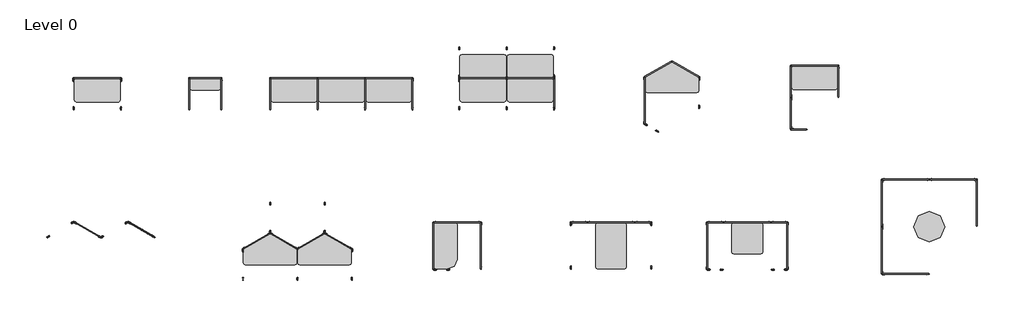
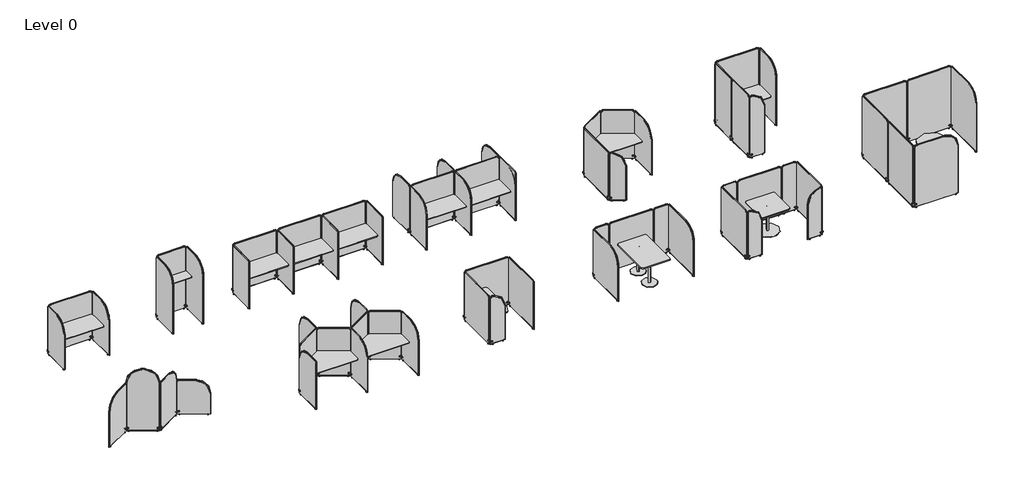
# One storey, incomplete: 130 furniture elements.
"""IFC4 building model written with IfcOpenShell, lengths in millimetres."""

from ifc_helpers import new_model, si_unit, origin, place, context, project, spatial, transform, mapped, element, save
from components import furniture_53994bdf, furniture_681635c7, furniture_77d4a9f0, furniture_fb40049b, furniture_39da6c51, furniture_63e6da80, furniture_cb25d1a6, furniture_31741fdc, furniture_1200_x_600_desk_1b4974f5, furniture_1200_x_600_desk_c705bebf, booth_desk_left_ba8bafd5, high_1200_radius_wall_e7a14534, high_1200_radius_wall_2fde37d9, high_1200_square_wall_9c159515, high_1200_square_wall_e177793e, high_400_radius_wall_c7d0d529, high_800_arch_wall_f41f3d3d, high_800_radius_wall_8716b8e9, high_800_radius_wall_88a6a849, high_800_square_wall_054c3995, high_800_square_wall_713c82bf, ledge_top_460520a5, low_800_radius_wall_ecd84fb3, mid_1200_radius_wall_593a21f5, mid_1200_square_wall_a06490c5, mid_1200_square_wall_6a94bbc1, mid_400_radius_wall_6cb88911, mid_400_radius_wall_c67583d0, mid_400_square_wall_69be5a48, mid_400_square_wall_4edd793a, mid_800_radius_wall_d383712f, mid_800_radius_wall_df8133a5, mid_800_square_wall_40fcdca0, mid_800_square_wall_5ebc1928, straight_link_5d8c671a, straight_link_6983c467, t_link_2f3e7760, t_link_76a82dae, triangular_desk_e4d0531c, x_link_ebb2dd72, x_link_8aea4371

model = new_model("IFC4")

# Units and contexts
model_context = context("Model", 3, world=origin())
ifc_project = project(units=[si_unit("LENGTHUNIT", "METRE", prefix="MILLI")], contexts=[model_context])

# Site, building, storey
site = spatial("IfcSite", under=ifc_project)
building = spatial("IfcBuilding", under=site)
storey = spatial("IfcBuildingStorey", under=building, Name="Level 0", Elevation=0.0)

# Furniture
placement = place(None, origin())
furniture_shape = furniture_53994bdf(model_context)
element("IfcFurniture", 1, ObjectType="DBLTD_Sixteen3_PrivacyScreens_Artus_Bracket : 90° Corner Link", at=placement, inside=storey, context=model_context, shape_type="MappedRepresentation", body=[
    mapped(furniture_shape, transform((-5528.2192431, 7930.8726148, 0.0), x_axis=(0.0, 1.0, 0.0), y_axis=(-1.0, 0.0, 0.0), z_axis=(0.0, 0.0, 1.0))),
])
element("IfcFurniture", 2, ObjectType="DBLTD_Sixteen3_PrivacyScreens_Artus_Bracket : 90° Corner Link", at=placement, inside=storey, context=model_context, shape_type="MappedRepresentation", body=[
    mapped(furniture_shape, transform((-2928.2192431, 7930.8726148, 0.0), x_axis=(0.0, 1.0, 0.0), y_axis=(-1.0, 0.0, 0.0), z_axis=(0.0, 0.0, 1.0))),
])
element("IfcFurniture", 3, ObjectType="DBLTD_Sixteen3_PrivacyScreens_Artus_Bracket : 90° Corner Link", at=placement, inside=storey, context=model_context, shape_type="MappedRepresentation", body=[
    mapped(furniture_shape, transform((2028.5333389, 7930.8726148, 0.0), x_axis=(0.0, 1.0, 0.0), y_axis=(-1.0, 0.0, 0.0), z_axis=(0.0, 0.0, 1.0))),
])
element("IfcFurniture", 4, ObjectType="DBLTD_Sixteen3_PrivacyScreens_Artus_Bracket : 90° Corner Link", at=placement, inside=storey, context=model_context, shape_type="MappedRepresentation", body=[
    mapped(furniture_shape, transform((13071.7807569, 8254.6189273, 0.0), x_axis=(0.0, 1.0, 0.0), y_axis=(-1.0, 0.0, 0.0), z_axis=(0.0, 0.0, 1.0))),
])
element("IfcFurniture", 5, ObjectType="DBLTD_Sixteen3_PrivacyScreens_Artus_Bracket : 90° Corner Link", at=placement, inside=storey, context=model_context, shape_type="MappedRepresentation", body=[
    mapped(furniture_shape, transform((1753.1459869, 5008.7045529, 0.0), x_axis=(-1.0, 0.0, 0.0), y_axis=(0.0, -1.0, 0.0), z_axis=(0.0, 0.0, 1.0))),
])
element("IfcFurniture", 6, ObjectType="DBLTD_Sixteen3_PrivacyScreens_Artus_Bracket : 90° Corner Link", at=placement, inside=storey, context=model_context, shape_type="MappedRepresentation", body=[
    mapped(furniture_shape, transform((5317.5243226, 5008.7045529, 0.0), x_axis=(-1.0, 0.0, 0.0), y_axis=(0.0, -1.0, 0.0), z_axis=(0.0, 0.0, 1.0))),
])
element("IfcFurniture", 7, ObjectType="DBLTD_Sixteen3_PrivacyScreens_Artus_Bracket : 90° Corner Link", at=placement, inside=storey, context=model_context, shape_type="MappedRepresentation", body=[
    mapped(furniture_shape, transform((8849.7997214, 5008.7045529, 0.0), x_axis=(-1.0, 0.0, 0.0), y_axis=(0.0, -1.0, 0.0), z_axis=(0.0, 0.0, 1.0))),
])
element("IfcFurniture", 8, ObjectType="DBLTD_Sixteen3_PrivacyScreens_Artus_Bracket : 90° Corner Link", at=placement, inside=storey, context=model_context, shape_type="MappedRepresentation", body=[
    mapped(furniture_shape, transform((10931.6493345, 2140.3282619, 0.0), x_axis=(1.0, 0.0, 0.0), y_axis=(0.0, 1.0, 0.0), z_axis=(0.0, 0.0, 1.0))),
])
element("IfcFurniture", 9, ObjectType="DBLTD_Sixteen3_PrivacyScreens_Artus_Bracket : 90° Corner Link", at=placement, inside=storey, context=model_context, shape_type="MappedRepresentation", body=[
    mapped(furniture_shape, transform((10932.1607488, 2140.3282619, 0.0), x_axis=(1.0, 0.0, 0.0), y_axis=(0.0, 1.0, 0.0), z_axis=(0.0, 0.0, 1.0))),
])
element("IfcFurniture", 10, ObjectType="DBLTD_Sixteen3_PrivacyScreens_Artus_Bracket : 90° Corner Link", at=placement, inside=storey, context=model_context, shape_type="MappedRepresentation", body=[
    mapped(furniture_shape, transform((16658.9953523, 5301.4012284, 0.0), x_axis=(0.0, 1.0, 0.0), y_axis=(-1.0, 0.0, 0.0), z_axis=(0.0, 0.0, 1.0))),
])
element("IfcFurniture", 11, ObjectType="DBLTD_Sixteen3_PrivacyScreens_Artus_Bracket : 90° Corner Link", at=placement, inside=storey, context=model_context, shape_type="MappedRepresentation", body=[
    mapped(furniture_shape, transform((12563.6908637, 2846.0967398, 0.0), x_axis=(0.0, -1.0, 0.0), y_axis=(1.0, 0.0, 0.0), z_axis=(0.0, 0.0, 1.0))),
])
furniture_2_shape = furniture_681635c7(model_context)
element("IfcFurniture", 12, ObjectType="DBLTD_Sixteen3_PrivacyScreens_Artus_Bracket : 120° Corner Link", at=placement, inside=storey, context=model_context, shape_type="MappedRepresentation", body=[
    mapped(furniture_2_shape, transform((6408.8793601, 6735.6071257, 0.0), x_axis=(0.0, -1.0, 0.0), y_axis=(1.0, 0.0, 0.0), z_axis=(0.0, 0.0, 1.0))),
])
element("IfcFurniture", 13, ObjectType="DBLTD_Sixteen3_PrivacyScreens_Artus_Bracket : 120° Corner Link", at=placement, inside=storey, context=model_context, shape_type="MappedRepresentation", body=[
    mapped(furniture_2_shape, transform((9462.3894116, 7967.8605915, 0.0), x_axis=(0.0, 1.0, 0.0), y_axis=(-1.0, 0.0, 0.0), z_axis=(0.0, 0.0, 1.0))),
])
element("IfcFurniture", 14, ObjectType="DBLTD_Sixteen3_PrivacyScreens_Artus_Bracket : 120° Corner Link", at=placement, inside=storey, context=model_context, shape_type="MappedRepresentation", body=[
    mapped(furniture_2_shape, transform((-7168.9409098, 4913.952052, 0.0), x_axis=(-0.8660254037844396, 0.4999999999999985, 0.0), y_axis=(-0.4999999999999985, -0.8660254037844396, 0.0), z_axis=(0.0, 0.0, 1.0))),
])
element("IfcFurniture", 15, ObjectType="DBLTD_Sixteen3_PrivacyScreens_Artus_Bracket : 120° Corner Link", at=placement, inside=storey, context=model_context, shape_type="MappedRepresentation", body=[
    mapped(furniture_2_shape, transform((-5765.3387395, 4913.952052, 0.0), x_axis=(-0.8660254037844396, 0.4999999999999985, 0.0), y_axis=(-0.4999999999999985, -0.8660254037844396, 0.0), z_axis=(0.0, 0.0, 1.0))),
])
element("IfcFurniture", 16, ObjectType="DBLTD_Sixteen3_PrivacyScreens_Artus_Bracket : 120° Corner Link", at=placement, inside=storey, context=model_context, shape_type="MappedRepresentation", body=[
    mapped(furniture_2_shape, transform((-952.9909902, 3503.7364897, 0.0), x_axis=(0.0, 1.0, 0.0), y_axis=(-1.0, 0.0, 0.0), z_axis=(0.0, 0.0, 1.0))),
])
element("IfcFurniture", 17, ObjectType="DBLTD_Sixteen3_PrivacyScreens_Artus_Bracket : 120° Corner Link", at=placement, inside=storey, context=model_context, shape_type="MappedRepresentation", body=[
    mapped(furniture_2_shape, transform((459.6241959, 3503.7364897, 0.0), x_axis=(0.0, 1.0, 0.0), y_axis=(-1.0, 0.0, 0.0), z_axis=(0.0, 0.0, 1.0))),
])
furniture_3_shape = furniture_77d4a9f0(model_context)
element("IfcFurniture", 18, ObjectType="DBLTD_Sixteen3_PrivacyScreens_Artus_Bracket : 90° Corner Link", at=placement, inside=storey, context=model_context, shape_type="MappedRepresentation", body=[
    mapped(furniture_3_shape, transform((-8396.5955341, 7930.8726148, 0.0), x_axis=(0.0, 1.0, 0.0), y_axis=(-1.0, 0.0, 0.0), z_axis=(0.0, 0.0, 1.0))),
])
element("IfcFurniture", 19, ObjectType="DBLTD_Sixteen3_PrivacyScreens_Artus_Bracket : 90° Corner Link", at=placement, inside=storey, context=model_context, shape_type="MappedRepresentation", body=[
    mapped(furniture_3_shape, transform((-5397.4073886, 7930.8726148, 0.0), x_axis=(0.0, 1.0, 0.0), y_axis=(-1.0, 0.0, 0.0), z_axis=(0.0, 0.0, 1.0))),
])
element("IfcFurniture", 20, ObjectType="DBLTD_Sixteen3_PrivacyScreens_Artus_Bracket : 90° Corner Link", at=placement, inside=storey, context=model_context, shape_type="MappedRepresentation", body=[
    mapped(furniture_3_shape, transform((-3296.5955341, 7930.8726148, 0.0), x_axis=(0.0, 1.0, 0.0), y_axis=(-1.0, 0.0, 0.0), z_axis=(0.0, 0.0, 1.0))),
])
element("IfcFurniture", 21, ObjectType="DBLTD_Sixteen3_PrivacyScreens_Artus_Bracket : 90° Corner Link", at=placement, inside=storey, context=model_context, shape_type="MappedRepresentation", body=[
    mapped(furniture_3_shape, transform((10203.4044659, 8254.6189273, 0.0), x_axis=(0.0, 1.0, 0.0), y_axis=(-1.0, 0.0, 0.0), z_axis=(0.0, 0.0, 1.0))),
])
element("IfcFurniture", 22, ObjectType="DBLTD_Sixteen3_PrivacyScreens_Artus_Bracket : 90° Corner Link", at=placement, inside=storey, context=model_context, shape_type="MappedRepresentation", body=[
    mapped(furniture_3_shape, transform((11023.4044659, 5781.4440283, 0.0), x_axis=(-1.0, 0.0, 0.0), y_axis=(0.0, -1.0, 0.0), z_axis=(0.0, 0.0, 1.0))),
])
element("IfcFurniture", 23, ObjectType="DBLTD_Sixteen3_PrivacyScreens_Artus_Bracket : 90° Corner Link", at=placement, inside=storey, context=model_context, shape_type="MappedRepresentation", body=[
    mapped(furniture_3_shape, transform((1753.1459869, 2140.3282619, 0.0), x_axis=(-1.0, 0.0, 0.0), y_axis=(0.0, -1.0, 0.0), z_axis=(0.0, 0.0, 1.0))),
])
element("IfcFurniture", 24, ObjectType="DBLTD_Sixteen3_PrivacyScreens_Artus_Bracket : 90° Corner Link", at=placement, inside=storey, context=model_context, shape_type="MappedRepresentation", body=[
    mapped(furniture_3_shape, transform((2985.5070142, 5008.7045529, 0.0), x_axis=(1.0, 0.0, 0.0), y_axis=(0.0, 1.0, 0.0), z_axis=(0.0, 0.0, 1.0))),
])
element("IfcFurniture", 25, ObjectType="DBLTD_Sixteen3_PrivacyScreens_Artus_Bracket : 90° Corner Link", at=placement, inside=storey, context=model_context, shape_type="MappedRepresentation", body=[
    mapped(furniture_3_shape, transform((7399.3739357, 5008.7045529, 0.0), x_axis=(1.0, 0.0, 0.0), y_axis=(0.0, 1.0, 0.0), z_axis=(0.0, 0.0, 1.0))),
])
element("IfcFurniture", 26, ObjectType="DBLTD_Sixteen3_PrivacyScreens_Artus_Bracket : 90° Corner Link", at=placement, inside=storey, context=model_context, shape_type="MappedRepresentation", body=[
    mapped(furniture_3_shape, transform((10931.6493345, 5008.7045529, 0.0), x_axis=(1.0, 0.0, 0.0), y_axis=(0.0, 1.0, 0.0), z_axis=(0.0, 0.0, 1.0))),
])
element("IfcFurniture", 27, ObjectType="DBLTD_Sixteen3_PrivacyScreens_Artus_Bracket : 90° Corner Link", at=placement, inside=storey, context=model_context, shape_type="MappedRepresentation", body=[
    mapped(furniture_3_shape, transform((8849.7997214, 2140.3282619, 0.0), x_axis=(-1.0, 0.0, 0.0), y_axis=(0.0, -1.0, 0.0), z_axis=(0.0, 0.0, 1.0))),
])
element("IfcFurniture", 28, ObjectType="DBLTD_Sixteen3_PrivacyScreens_Artus_Bracket : 90° Corner Link", at=placement, inside=storey, context=model_context, shape_type="MappedRepresentation", body=[
    mapped(furniture_3_shape, transform((12563.6908637, 5301.4012284, 0.0), x_axis=(0.0, 1.0, 0.0), y_axis=(-1.0, 0.0, 0.0), z_axis=(0.0, 0.0, 1.0))),
])
furniture_4_shape = furniture_fb40049b(model_context)
element("IfcFurniture", 29, ObjectType="DBLTD_Sixteen3_PrivacyScreens_Artus_Bracket : 120° Corner Link", at=placement, inside=storey, context=model_context, shape_type="MappedRepresentation", body=[
    mapped(furniture_4_shape, transform((6408.9049105, 7967.8605915, 0.0), x_axis=(0.0, 1.0, 0.0), y_axis=(-1.0, 0.0, 0.0), z_axis=(0.0, 0.0, 1.0))),
])
element("IfcFurniture", 30, ObjectType="DBLTD_Sixteen3_PrivacyScreens_Artus_Bracket : 120° Corner Link", at=placement, inside=storey, context=model_context, shape_type="MappedRepresentation", body=[
    mapped(furniture_4_shape, transform((-6467.1398246, 3080.6703898, 0.0), x_axis=(-0.8660254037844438, -0.4999999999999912, 0.0), y_axis=(0.4999999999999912, -0.8660254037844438, 0.0), z_axis=(0.0, 0.0, 1.0))),
])
element("IfcFurniture", 31, ObjectType="DBLTD_Sixteen3_PrivacyScreens_Artus_Bracket : 120° Corner Link", at=placement, inside=storey, context=model_context, shape_type="MappedRepresentation", body=[
    mapped(furniture_4_shape, transform((-4006.4754913, 3503.7364897, 0.0), x_axis=(0.0, 1.0, 0.0), y_axis=(-1.0, 0.0, 0.0), z_axis=(0.0, 0.0, 1.0))),
])
furniture_5_shape = furniture_39da6c51(model_context)
element("IfcFurniture", 32, ObjectType="DBLTD_Sixteen3_PrivacyScreens_Artus_Bracket : 120° 3-Way Link", at=placement, inside=storey, context=model_context, shape_type="MappedRepresentation", body=[
    mapped(furniture_5_shape, transform((-2593.5744858, 3503.7364897, 0.0), x_axis=(0.0, 1.0, 0.0), y_axis=(-1.0, 0.0, 0.0), z_axis=(0.0, 0.0, 1.0))),
])
element("IfcFurniture", 33, ObjectType="DBLTD_Sixteen3_PrivacyScreens_Artus_Bracket : 120° 3-Way Link", at=placement, inside=storey, context=model_context, shape_type="MappedRepresentation", body=[
    mapped(furniture_5_shape, transform((-1660.0047529, 3895.6229639, 0.0), x_axis=(0.0, -1.0, 0.0), y_axis=(1.0, 0.0, 0.0), z_axis=(0.0, 0.0, 1.0))),
])
element("IfcFurniture", 34, ObjectType="DBLTD_Sixteen3_PrivacyScreens_Artus_Bracket : 120° 3-Way Link", at=placement, inside=storey, context=model_context, shape_type="MappedRepresentation", body=[
    mapped(furniture_5_shape, transform((-247.6053247, 3895.6229639, 0.0), x_axis=(0.0, -1.0, 0.0), y_axis=(1.0, 0.0, 0.0), z_axis=(0.0, 0.0, 1.0))),
])
furniture_6_shape = furniture_63e6da80(model_context)
element("IfcFurniture", 35, ObjectType="OPP-SH-12-80 - Standard Height - 1200x800 Rectangle : OPP-SH-12-80 - Standard Height - 1200x800 Rectangle", at=placement, inside=storey, context=model_context, shape_type="MappedRepresentation", body=[
    mapped(furniture_6_shape, transform((6358.7048363, 3574.5164074, 0.0), x_axis=(0.0, 1.0, 0.0), y_axis=(-1.0, 0.0, 0.0), z_axis=(0.0, 0.0, 1.0))),
])
furniture_7_shape = furniture_cb25d1a6(model_context)
element("IfcFurniture", 36, ObjectType="OPP-SH-S800 - Standard Height - 800 Square : OPP-SH-S800 - Standard Height - 800 Square", at=placement, inside=storey, context=model_context, shape_type="MappedRepresentation", body=[
    mapped(furniture_7_shape, transform((9890.9802351, 3775.4551932, 0.0), x_axis=(1.0, 0.0, 0.0), y_axis=(0.0, 1.0, 0.0), z_axis=(0.0, 0.0, 1.0))),
])
furniture_8_shape = furniture_31741fdc(model_context)
element("IfcFurniture", 37, ObjectType="OPP-SH-R800 - Standard Height - 800 Dia : OPP-SH-R800 - Standard Height - 800 Dia", at=placement, inside=storey, context=model_context, shape_type="MappedRepresentation", body=[
    mapped(furniture_8_shape, transform((14610.2374616, 4074.2069579, 0.0), x_axis=(0.7071067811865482, -0.7071067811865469, 0.0), y_axis=(0.7071067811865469, 0.7071067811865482, 0.0), z_axis=(0.0, 0.0, 1.0))),
])
furniture_1200_x_600_desk_shape = furniture_1200_x_600_desk_1b4974f5(model_context)
element("IfcFurniture", 38, ObjectType="DBLTD_Sixteen3_PrivacyScreens_Artus_Desk : 1200 x 600 Desk", at=placement, inside=storey, context=model_context, shape_type="MappedRepresentation", body=[
    mapped(furniture_1200_x_600_desk_shape, transform((-6962.4073886, 6796.8726148, 0.0), x_axis=(1.0, 0.0, 0.0), y_axis=(0.0, 1.0, 0.0), z_axis=(0.0, 0.0, 1.0))),
])
element("IfcFurniture", 39, ObjectType="DBLTD_Sixteen3_PrivacyScreens_Artus_Desk : 1200 x 600 Desk", at=placement, inside=storey, context=model_context, shape_type="MappedRepresentation", body=[
    mapped(furniture_1200_x_600_desk_shape, transform((-1862.4073886, 6796.8726148, 0.0), x_axis=(1.0, 0.0, 0.0), y_axis=(0.0, 1.0, 0.0), z_axis=(0.0, 0.0, 1.0))),
])
element("IfcFurniture", 40, ObjectType="DBLTD_Sixteen3_PrivacyScreens_Artus_Desk : 1200 x 600 Desk", at=placement, inside=storey, context=model_context, shape_type="MappedRepresentation", body=[
    mapped(furniture_1200_x_600_desk_shape, transform((-634.0310976, 6796.8726148, 0.0), x_axis=(1.0, 0.0, 0.0), y_axis=(0.0, 1.0, 0.0), z_axis=(0.0, 0.0, 1.0))),
])
element("IfcFurniture", 41, ObjectType="DBLTD_Sixteen3_PrivacyScreens_Artus_Desk : 1200 x 600 Desk", at=placement, inside=storey, context=model_context, shape_type="MappedRepresentation", body=[
    mapped(furniture_1200_x_600_desk_shape, transform((594.3451934, 6796.8726148, 0.0), x_axis=(1.0, 0.0, 0.0), y_axis=(0.0, 1.0, 0.0), z_axis=(0.0, 0.0, 1.0))),
])
element("IfcFurniture", 42, ObjectType="DBLTD_Sixteen3_PrivacyScreens_Artus_Desk : 1200 x 600 Desk", at=placement, inside=storey, context=model_context, shape_type="MappedRepresentation", body=[
    mapped(furniture_1200_x_600_desk_shape, transform((3037.5926114, 6796.8726148, 0.0), x_axis=(1.0, 0.0, 0.0), y_axis=(0.0, 1.0, 0.0), z_axis=(0.0, 0.0, 1.0))),
])
element("IfcFurniture", 43, ObjectType="DBLTD_Sixteen3_PrivacyScreens_Artus_Desk : 1200 x 600 Desk", at=placement, inside=storey, context=model_context, shape_type="MappedRepresentation", body=[
    mapped(furniture_1200_x_600_desk_shape, transform((4265.9689024, 6796.8726148, 0.0), x_axis=(1.0, 0.0, 0.0), y_axis=(0.0, 1.0, 0.0), z_axis=(0.0, 0.0, 1.0))),
])
element("IfcFurniture", 44, ObjectType="DBLTD_Sixteen3_PrivacyScreens_Artus_Desk : 1200 x 600 Desk", at=placement, inside=storey, context=model_context, shape_type="MappedRepresentation", body=[
    mapped(furniture_1200_x_600_desk_shape, transform((11637.5926114, 7120.6189273, 0.0), x_axis=(1.0, 0.0, 0.0), y_axis=(0.0, 1.0, 0.0), z_axis=(0.0, 0.0, 1.0))),
])
furniture_1200_x_600_desk_2_shape = furniture_1200_x_600_desk_c705bebf(model_context)
element("IfcFurniture", 45, ObjectType="DBLTD_Sixteen3_PrivacyScreens_Artus_Desk : 1200 x 600 Desk", at=placement, inside=storey, context=model_context, shape_type="MappedRepresentation", body=[
    mapped(furniture_1200_x_600_desk_2_shape, transform((3037.5926114, 9064.7798047, 0.0), x_axis=(1.0, 0.0, 0.0), y_axis=(0.0, 1.0, 0.0), z_axis=(0.0, 0.0, 1.0))),
])
element("IfcFurniture", 46, ObjectType="DBLTD_Sixteen3_PrivacyScreens_Artus_Desk : 1200 x 600 Desk", at=placement, inside=storey, context=model_context, shape_type="MappedRepresentation", body=[
    mapped(furniture_1200_x_600_desk_2_shape, transform((4265.9689024, 9064.7798047, 0.0), x_axis=(1.0, 0.0, 0.0), y_axis=(0.0, 1.0, 0.0), z_axis=(0.0, 0.0, 1.0))),
])
booth_desk_left_shape = booth_desk_left_ba8bafd5(model_context)
element("IfcFurniture", 47, ObjectType="DBLTD_Sixteen3_PrivacyScreens_Artus_Desk : Booth Desk Left", at=placement, inside=storey, context=model_context, shape_type="MappedRepresentation", body=[
    mapped(booth_desk_left_shape, transform((2887.1459869, 3574.5164074, 0.0), x_axis=(0.0, 1.0, 0.0), y_axis=(-1.0, 0.0, 0.0), z_axis=(0.0, 0.0, 1.0))),
])
high_1200_radius_wall_shape = high_1200_radius_wall_e7a14534(model_context)
element("IfcFurniture", 48, ObjectType="DBLTD_Sixteen3_PrivacyScreens_Artus_ArchRadius : High 1200 Radius Wall", at=placement, inside=storey, context=model_context, shape_type="MappedRepresentation", body=[
    mapped(high_1200_radius_wall_shape, transform((13998.343108, 3665.8473801, 0.0), x_axis=(-1.0, 0.0, 0.0), y_axis=(0.0, -1.0, 0.0), z_axis=(0.0, 0.0, 1.0))),
])
high_1200_radius_wall_2_shape = high_1200_radius_wall_2fde37d9(model_context)
element("IfcFurniture", 49, ObjectType="DBLTD_Sixteen3_PrivacyScreens_Artus_ArchRadius : High 1200 Radius Wall", at=placement, inside=storey, context=model_context, shape_type="MappedRepresentation", body=[
    mapped(high_1200_radius_wall_2_shape, transform((15018.9953523, 4686.4996244, 0.0), x_axis=(0.0, 1.0, 0.0), y_axis=(-1.0, 0.0, 0.0), z_axis=(0.0, 0.0, 1.0))),
])
high_1200_square_wall_shape = high_1200_square_wall_9c159515(model_context)
element("IfcFurniture", 50, ObjectType="DBLTD_Sixteen3_PrivacyScreens_Artus_Square : High 1200 Square Wall", at=placement, inside=storey, context=model_context, shape_type="MappedRepresentation", body=[
    mapped(high_1200_square_wall_shape, transform((11637.5926114, 7434.5725223, 0.0), x_axis=(1.0, 0.0, 0.0), y_axis=(0.0, 1.0, 0.0), z_axis=(0.0, 0.0, 1.0))),
])
element("IfcFurniture", 51, ObjectType="DBLTD_Sixteen3_PrivacyScreens_Artus_Square : High 1200 Square Wall", at=placement, inside=storey, context=model_context, shape_type="MappedRepresentation", body=[
    mapped(high_1200_square_wall_shape, transform((15224.343108, 6121.1518687, 0.0), x_axis=(-1.0, 0.0, 0.0), y_axis=(0.0, -1.0, 0.0), z_axis=(0.0, 0.0, 1.0))),
])
element("IfcFurniture", 52, ObjectType="DBLTD_Sixteen3_PrivacyScreens_Artus_Square : High 1200 Square Wall", at=placement, inside=storey, context=model_context, shape_type="MappedRepresentation", body=[
    mapped(high_1200_square_wall_shape, transform((13998.343108, 6121.1518687, 0.0), x_axis=(-1.0, 0.0, 0.0), y_axis=(0.0, -1.0, 0.0), z_axis=(0.0, 0.0, 1.0))),
])
high_1200_square_wall_2_shape = high_1200_square_wall_e177793e(model_context)
element("IfcFurniture", 53, ObjectType="DBLTD_Sixteen3_PrivacyScreens_Artus_Square : High 1200 Square Wall", at=placement, inside=storey, context=model_context, shape_type="MappedRepresentation", body=[
    mapped(high_1200_square_wall_2_shape, transform((12563.6908637, 3460.4996244, 0.0), x_axis=(0.0, 1.0, 0.0), y_axis=(-1.0, 0.0, 0.0), z_axis=(0.0, 0.0, 1.0))),
])
element("IfcFurniture", 54, ObjectType="DBLTD_Sixteen3_PrivacyScreens_Artus_Square : High 1200 Square Wall", at=placement, inside=storey, context=model_context, shape_type="MappedRepresentation", body=[
    mapped(high_1200_square_wall_2_shape, transform((12563.6908637, 4686.4996244, 0.0), x_axis=(0.0, 1.0, 0.0), y_axis=(-1.0, 0.0, 0.0), z_axis=(0.0, 0.0, 1.0))),
])
high_400_radius_wall_shape = high_400_radius_wall_c7d0d529(model_context)
element("IfcFurniture", 55, ObjectType="DBLTD_Sixteen3_PrivacyScreens_Artus_ArchRadius : High 400 Radius Wall", at=placement, inside=storey, context=model_context, shape_type="MappedRepresentation", body=[
    mapped(high_400_radius_wall_shape, transform((11229.7439153, 7421.4440283, 0.0), x_axis=(-1.0, 0.0, 0.0), y_axis=(0.0, -1.0, 0.0), z_axis=(0.0, 0.0, 1.0))),
])
high_800_arch_wall_shape = high_800_arch_wall_f41f3d3d(model_context)
element("IfcFurniture", 56, ObjectType="DBLTD_Sixteen3_PrivacyScreens_Artus_ArchRadius : High 800 Arch Wall", at=placement, inside=storey, context=model_context, shape_type="MappedRepresentation", body=[
    mapped(high_800_arch_wall_shape, transform((-7631.272418, 3287.1703898, 0.0), x_axis=(0.8660254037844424, -0.4999999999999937, 0.0), y_axis=(0.4999999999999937, 0.8660254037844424, 0.0), z_axis=(0.0, 0.0, 1.0))),
])
high_800_radius_wall_shape = high_800_radius_wall_8716b8e9(model_context)
element("IfcFurniture", 57, ObjectType="DBLTD_Sixteen3_PrivacyScreens_Artus_ArchRadius : High 800 Radius Wall", at=placement, inside=storey, context=model_context, shape_type="MappedRepresentation", body=[
    mapped(high_800_radius_wall_shape, transform((-2928.2192431, 7516.5904913, 0.0), x_axis=(0.0, 1.0, 0.0), y_axis=(-1.0, 0.0, 0.0), z_axis=(0.0, 0.0, 1.0))),
])
element("IfcFurniture", 58, ObjectType="DBLTD_Sixteen3_PrivacyScreens_Artus_ArchRadius : High 800 Radius Wall", at=placement, inside=storey, context=model_context, shape_type="MappedRepresentation", body=[
    mapped(high_800_radius_wall_shape, transform((13071.7807569, 7840.3368038, 0.0), x_axis=(0.0, 1.0, 0.0), y_axis=(-1.0, 0.0, 0.0), z_axis=(0.0, 0.0, 1.0))),
])
high_800_radius_wall_2_shape = high_800_radius_wall_88a6a849(model_context)
element("IfcFurniture", 59, ObjectType="DBLTD_Sixteen3_PrivacyScreens_Artus_ArchRadius : High 800 Radius Wall", at=placement, inside=storey, context=model_context, shape_type="MappedRepresentation", body=[
    mapped(high_800_radius_wall_2_shape, transform((-5397.4073886, 7516.5904913, 0.0), x_axis=(0.0, 1.0, 0.0), y_axis=(-1.0, 0.0, 0.0), z_axis=(0.0, 0.0, 1.0))),
])
high_800_square_wall_shape = high_800_square_wall_054c3995(model_context)
element("IfcFurniture", 60, ObjectType="DBLTD_Sixteen3_PrivacyScreens_Artus_Square : High 800 Square Wall", at=placement, inside=storey, context=model_context, shape_type="MappedRepresentation", body=[
    mapped(high_800_square_wall_shape, transform((-4162.4073886, 7110.8262097, 0.0), x_axis=(1.0, 0.0, 0.0), y_axis=(0.0, 1.0, 0.0), z_axis=(0.0, 0.0, 1.0))),
])
high_800_square_wall_2_shape = high_800_square_wall_713c82bf(model_context)
element("IfcFurniture", 61, ObjectType="DBLTD_Sixteen3_PrivacyScreens_Artus_Square : High 800 Square Wall", at=placement, inside=storey, context=model_context, shape_type="MappedRepresentation", body=[
    mapped(high_800_square_wall_2_shape, transform((10203.4044659, 7840.3368038, 0.0), x_axis=(0.0, 1.0, 0.0), y_axis=(-1.0, 0.0, 0.0), z_axis=(0.0, 0.0, 1.0))),
])
element("IfcFurniture", 62, ObjectType="DBLTD_Sixteen3_PrivacyScreens_Artus_Square : High 800 Square Wall", at=placement, inside=storey, context=model_context, shape_type="MappedRepresentation", body=[
    mapped(high_800_square_wall_2_shape, transform((10203.4044659, 7015.3368038, 0.0), x_axis=(0.0, 1.0, 0.0), y_axis=(-1.0, 0.0, 0.0), z_axis=(0.0, 0.0, 1.0))),
])
ledge_top_shape = ledge_top_460520a5(model_context)
element("IfcFurniture", 63, ObjectType="DBLTD_Sixteen3_PrivacyScreens_Artus_Desk : Ledge Top", at=placement, inside=storey, context=model_context, shape_type="MappedRepresentation", body=[
    mapped(ledge_top_shape, transform((-4162.4073886, 6946.8726148, 0.0), x_axis=(1.0, 0.0, 0.0), y_axis=(0.0, 1.0, 0.0), z_axis=(0.0, 0.0, 1.0))),
])
low_800_radius_wall_shape = low_800_radius_wall_ecd84fb3(model_context)
element("IfcFurniture", 64, ObjectType="DBLTD_Sixteen3_PrivacyScreens_Artus_ArchRadius : Low 800 Radius Wall", at=placement, inside=storey, context=model_context, shape_type="MappedRepresentation", body=[
    mapped(low_800_radius_wall_shape, transform((-5407.6702477, 4707.452052, 0.0), x_axis=(-0.8660254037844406, 0.49999999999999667, 0.0), y_axis=(-0.49999999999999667, -0.8660254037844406, 0.0), z_axis=(0.0, 0.0, 1.0))),
])
mid_1200_radius_wall_shape = mid_1200_radius_wall_593a21f5(model_context)
element("IfcFurniture", 65, ObjectType="DBLTD_Sixteen3_PrivacyScreens_Artus_ArchRadius : Mid 1200 Radius Wall", at=placement, inside=storey, context=model_context, shape_type="MappedRepresentation", body=[
    mapped(mid_1200_radius_wall_shape, transform((6137.5707276, 3574.5164074, 0.0), x_axis=(0.0, 1.0, 0.0), y_axis=(-1.0, 0.0, 0.0), z_axis=(0.0, 0.0, 1.0))),
])
element("IfcFurniture", 66, ObjectType="DBLTD_Sixteen3_PrivacyScreens_Artus_ArchRadius : Mid 1200 Radius Wall", at=placement, inside=storey, context=model_context, shape_type="MappedRepresentation", body=[
    mapped(mid_1200_radius_wall_shape, transform((8219.3739357, 3574.5164074, 0.0), x_axis=(0.0, 1.0, 0.0), y_axis=(-1.0, 0.0, 0.0), z_axis=(0.0, 0.0, 1.0))),
])
mid_1200_square_wall_shape = mid_1200_square_wall_a06490c5(model_context)
element("IfcFurniture", 67, ObjectType="DBLTD_Sixteen3_PrivacyScreens_Artus_Square : Mid 1200 Square Wall", at=placement, inside=storey, context=model_context, shape_type="MappedRepresentation", body=[
    mapped(mid_1200_square_wall_shape, transform((-6962.4073886, 7110.8262097, 0.0), x_axis=(1.0, 0.0, 0.0), y_axis=(0.0, 1.0, 0.0), z_axis=(0.0, 0.0, 1.0))),
])
element("IfcFurniture", 68, ObjectType="DBLTD_Sixteen3_PrivacyScreens_Artus_Square : Mid 1200 Square Wall", at=placement, inside=storey, context=model_context, shape_type="MappedRepresentation", body=[
    mapped(mid_1200_square_wall_shape, transform((-1862.4073886, 7110.8262097, 0.0), x_axis=(1.0, 0.0, 0.0), y_axis=(0.0, 1.0, 0.0), z_axis=(0.0, 0.0, 1.0))),
])
element("IfcFurniture", 69, ObjectType="DBLTD_Sixteen3_PrivacyScreens_Artus_Square : Mid 1200 Square Wall", at=placement, inside=storey, context=model_context, shape_type="MappedRepresentation", body=[
    mapped(mid_1200_square_wall_shape, transform((3037.5926114, 7110.8262097, 0.0), x_axis=(1.0, 0.0, 0.0), y_axis=(0.0, 1.0, 0.0), z_axis=(0.0, 0.0, 1.0))),
])
element("IfcFurniture", 70, ObjectType="DBLTD_Sixteen3_PrivacyScreens_Artus_Square : Mid 1200 Square Wall", at=placement, inside=storey, context=model_context, shape_type="MappedRepresentation", body=[
    mapped(mid_1200_square_wall_shape, transform((-634.0310976, 7110.8262097, 0.0), x_axis=(1.0, 0.0, 0.0), y_axis=(0.0, 1.0, 0.0), z_axis=(0.0, 0.0, 1.0))),
])
element("IfcFurniture", 71, ObjectType="DBLTD_Sixteen3_PrivacyScreens_Artus_Square : Mid 1200 Square Wall", at=placement, inside=storey, context=model_context, shape_type="MappedRepresentation", body=[
    mapped(mid_1200_square_wall_shape, transform((594.3451934, 7110.8262097, 0.0), x_axis=(1.0, 0.0, 0.0), y_axis=(0.0, 1.0, 0.0), z_axis=(0.0, 0.0, 1.0))),
])
element("IfcFurniture", 72, ObjectType="DBLTD_Sixteen3_PrivacyScreens_Artus_Square : Mid 1200 Square Wall", at=placement, inside=storey, context=model_context, shape_type="MappedRepresentation", body=[
    mapped(mid_1200_square_wall_shape, transform((2369.3265005, 5008.7045529, 0.0), x_axis=(-1.0, 0.0, 0.0), y_axis=(0.0, -1.0, 0.0), z_axis=(0.0, 0.0, 1.0))),
])
element("IfcFurniture", 73, ObjectType="DBLTD_Sixteen3_PrivacyScreens_Artus_Square : Mid 1200 Square Wall", at=placement, inside=storey, context=model_context, shape_type="MappedRepresentation", body=[
    mapped(mid_1200_square_wall_shape, transform((2573.1923919, 3574.5164074, 0.0), x_axis=(0.0, 1.0, 0.0), y_axis=(-1.0, 0.0, 0.0), z_axis=(0.0, 0.0, 1.0))),
])
element("IfcFurniture", 74, ObjectType="DBLTD_Sixteen3_PrivacyScreens_Artus_Square : Mid 1200 Square Wall", at=placement, inside=storey, context=model_context, shape_type="MappedRepresentation", body=[
    mapped(mid_1200_square_wall_shape, transform((3805.5070142, 3574.5164074, 0.0), x_axis=(0.0, 1.0, 0.0), y_axis=(-1.0, 0.0, 0.0), z_axis=(0.0, 0.0, 1.0))),
])
element("IfcFurniture", 75, ObjectType="DBLTD_Sixteen3_PrivacyScreens_Artus_Square : Mid 1200 Square Wall", at=placement, inside=storey, context=model_context, shape_type="MappedRepresentation", body=[
    mapped(mid_1200_square_wall_shape, transform((6358.7048363, 5008.7045529, 0.0), x_axis=(-1.0, 0.0, 0.0), y_axis=(0.0, -1.0, 0.0), z_axis=(0.0, 0.0, 1.0))),
])
element("IfcFurniture", 76, ObjectType="DBLTD_Sixteen3_PrivacyScreens_Artus_Square : Mid 1200 Square Wall", at=placement, inside=storey, context=model_context, shape_type="MappedRepresentation", body=[
    mapped(mid_1200_square_wall_shape, transform((9890.9802351, 5008.7045529, 0.0), x_axis=(-1.0, 0.0, 0.0), y_axis=(0.0, -1.0, 0.0), z_axis=(0.0, 0.0, 1.0))),
])
element("IfcFurniture", 77, ObjectType="DBLTD_Sixteen3_PrivacyScreens_Artus_Square : Mid 1200 Square Wall", at=placement, inside=storey, context=model_context, shape_type="MappedRepresentation", body=[
    mapped(mid_1200_square_wall_shape, transform((9669.8461265, 3574.5164074, 0.0), x_axis=(0.0, 1.0, 0.0), y_axis=(-1.0, 0.0, 0.0), z_axis=(0.0, 0.0, 1.0))),
])
element("IfcFurniture", 78, ObjectType="DBLTD_Sixteen3_PrivacyScreens_Artus_Square : Mid 1200 Square Wall", at=placement, inside=storey, context=model_context, shape_type="MappedRepresentation", body=[
    mapped(mid_1200_square_wall_shape, transform((11751.6493345, 3574.5164074, 0.0), x_axis=(0.0, 1.0, 0.0), y_axis=(-1.0, 0.0, 0.0), z_axis=(0.0, 0.0, 1.0))),
])
mid_1200_square_wall_2_shape = mid_1200_square_wall_6a94bbc1(model_context)
element("IfcFurniture", 79, ObjectType="DBLTD_Sixteen3_PrivacyScreens_Artus_Square : Mid 1200 Square Wall", at=placement, inside=storey, context=model_context, shape_type="MappedRepresentation", body=[
    mapped(mid_1200_square_wall_2_shape, transform((4265.9689024, 7110.8262097, 0.0), x_axis=(-1.0, 0.0, 0.0), y_axis=(0.0, -1.0, 0.0), z_axis=(0.0, 0.0, 1.0))),
])
element("IfcFurniture", 80, ObjectType="DBLTD_Sixteen3_PrivacyScreens_Artus_Square : Mid 1200 Square Wall", at=placement, inside=storey, context=model_context, shape_type="MappedRepresentation", body=[
    mapped(mid_1200_square_wall_2_shape, transform((8048.9049105, 7351.7264829, 0.0), x_axis=(0.0, -1.0, 0.0), y_axis=(1.0, 0.0, 0.0), z_axis=(0.0, 0.0, 1.0))),
])
mid_400_radius_wall_shape = mid_400_radius_wall_6cb88911(model_context)
element("IfcFurniture", 81, ObjectType="DBLTD_Sixteen3_PrivacyScreens_Artus_ArchRadius : Mid 400 Radius Wall", at=placement, inside=storey, context=model_context, shape_type="MappedRepresentation", body=[
    mapped(mid_400_radius_wall_shape, transform((7819.6099912, 7349.9002328, 0.0), x_axis=(-0.8660254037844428, 0.4999999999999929, 0.0), y_axis=(-0.4999999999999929, -0.8660254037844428, 0.0), z_axis=(0.0, 0.0, 1.0))),
])
element("IfcFurniture", 82, ObjectType="DBLTD_Sixteen3_PrivacyScreens_Artus_ArchRadius : Mid 400 Radius Wall", at=placement, inside=storey, context=model_context, shape_type="MappedRepresentation", body=[
    mapped(mid_400_radius_wall_shape, transform((9064.1539982, 3780.3282619, 0.0), x_axis=(-1.0, 0.0, 0.0), y_axis=(0.0, -1.0, 0.0), z_axis=(0.0, 0.0, 1.0))),
])
mid_400_radius_wall_2_shape = mid_400_radius_wall_c67583d0(model_context)
element("IfcFurniture", 83, ObjectType="DBLTD_Sixteen3_PrivacyScreens_Artus_ArchRadius : Mid 400 Radius Wall", at=placement, inside=storey, context=model_context, shape_type="MappedRepresentation", body=[
    mapped(mid_400_radius_wall_2_shape, transform((1967.4281103, 2140.3282619, 0.0), x_axis=(-1.0, 0.0, 0.0), y_axis=(0.0, -1.0, 0.0), z_axis=(0.0, 0.0, 1.0))),
])
element("IfcFurniture", 84, ObjectType="DBLTD_Sixteen3_PrivacyScreens_Artus_ArchRadius : Mid 400 Radius Wall", at=placement, inside=storey, context=model_context, shape_type="MappedRepresentation", body=[
    mapped(mid_400_radius_wall_2_shape, transform((10717.806472, 3780.3282619, 0.0), x_axis=(1.0, 0.0, 0.0), y_axis=(0.0, 1.0, 0.0), z_axis=(0.0, 0.0, 1.0))),
])
mid_400_square_wall_shape = mid_400_square_wall_69be5a48(model_context)
element("IfcFurniture", 85, ObjectType="DBLTD_Sixteen3_PrivacyScreens_Artus_Square : Mid 400 Square Wall", at=placement, inside=storey, context=model_context, shape_type="MappedRepresentation", body=[
    mapped(mid_400_square_wall_shape, transform((5532.1791705, 5008.7045529, 0.0), x_axis=(-1.0, 0.0, 0.0), y_axis=(0.0, -1.0, 0.0), z_axis=(0.0, 0.0, 1.0))),
])
element("IfcFurniture", 86, ObjectType="DBLTD_Sixteen3_PrivacyScreens_Artus_Square : Mid 400 Square Wall", at=placement, inside=storey, context=model_context, shape_type="MappedRepresentation", body=[
    mapped(mid_400_square_wall_shape, transform((9064.4545693, 5008.7045529, 0.0), x_axis=(-1.0, 0.0, 0.0), y_axis=(0.0, -1.0, 0.0), z_axis=(0.0, 0.0, 1.0))),
])
mid_400_square_wall_2_shape = mid_400_square_wall_4edd793a(model_context)
element("IfcFurniture", 87, ObjectType="DBLTD_Sixteen3_PrivacyScreens_Artus_Square : Mid 400 Square Wall", at=placement, inside=storey, context=model_context, shape_type="MappedRepresentation", body=[
    mapped(mid_400_square_wall_2_shape, transform((7185.230502, 5008.7045529, 0.0), x_axis=(1.0, 0.0, 0.0), y_axis=(0.0, 1.0, 0.0), z_axis=(0.0, 0.0, 1.0))),
])
element("IfcFurniture", 88, ObjectType="DBLTD_Sixteen3_PrivacyScreens_Artus_Square : Mid 400 Square Wall", at=placement, inside=storey, context=model_context, shape_type="MappedRepresentation", body=[
    mapped(mid_400_square_wall_2_shape, transform((10717.5059009, 5008.7045529, 0.0), x_axis=(1.0, 0.0, 0.0), y_axis=(0.0, 1.0, 0.0), z_axis=(0.0, 0.0, 1.0))),
])
mid_800_radius_wall_shape = mid_800_radius_wall_d383712f(model_context)
element("IfcFurniture", 89, ObjectType="DBLTD_Sixteen3_PrivacyScreens_Artus_ArchRadius : Mid 800 Radius Wall", at=placement, inside=storey, context=model_context, shape_type="MappedRepresentation", body=[
    mapped(mid_800_radius_wall_shape, transform((-5528.2192431, 7516.5904913, 0.0), x_axis=(0.0, 1.0, 0.0), y_axis=(-1.0, 0.0, 0.0), z_axis=(0.0, 0.0, 1.0))),
])
element("IfcFurniture", 90, ObjectType="DBLTD_Sixteen3_PrivacyScreens_Artus_ArchRadius : Mid 800 Radius Wall", at=placement, inside=storey, context=model_context, shape_type="MappedRepresentation", body=[
    mapped(mid_800_radius_wall_shape, transform((4471.7807569, 7516.5904913, 0.0), x_axis=(0.0, 1.0, 0.0), y_axis=(-1.0, 0.0, 0.0), z_axis=(0.0, 0.0, 1.0))),
])
element("IfcFurniture", 91, ObjectType="DBLTD_Sixteen3_PrivacyScreens_Artus_ArchRadius : Mid 800 Radius Wall", at=placement, inside=storey, context=model_context, shape_type="MappedRepresentation", body=[
    mapped(mid_800_radius_wall_shape, transform((5700.1570479, 7516.5904913, 0.0), x_axis=(0.0, 1.0, 0.0), y_axis=(-1.0, 0.0, 0.0), z_axis=(0.0, 0.0, 1.0))),
])
element("IfcFurniture", 92, ObjectType="DBLTD_Sixteen3_PrivacyScreens_Artus_ArchRadius : Mid 800 Radius Wall", at=placement, inside=storey, context=model_context, shape_type="MappedRepresentation", body=[
    mapped(mid_800_radius_wall_shape, transform((1603.4044659, 8345.0619282, 0.0), x_axis=(0.0, -1.0, 0.0), y_axis=(1.0, 0.0, 0.0), z_axis=(0.0, 0.0, 1.0))),
])
element("IfcFurniture", 93, ObjectType="DBLTD_Sixteen3_PrivacyScreens_Artus_ArchRadius : Mid 800 Radius Wall", at=placement, inside=storey, context=model_context, shape_type="MappedRepresentation", body=[
    mapped(mid_800_radius_wall_shape, transform((-7513.0735032, 3287.1703898, 0.0), x_axis=(0.8660254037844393, 0.49999999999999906, 0.0), y_axis=(-0.49999999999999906, 0.8660254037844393, 0.0), z_axis=(0.0, 0.0, 1.0))),
])
element("IfcFurniture", 94, ObjectType="DBLTD_Sixteen3_PrivacyScreens_Artus_ArchRadius : Mid 800 Radius Wall", at=placement, inside=storey, context=model_context, shape_type="MappedRepresentation", body=[
    mapped(mid_800_radius_wall_shape, transform((-6929.4713329, 4707.452052, 0.0), x_axis=(-0.866025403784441, -0.49999999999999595, 0.0), y_axis=(0.49999999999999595, -0.866025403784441, 0.0), z_axis=(0.0, 0.0, 1.0))),
])
mid_800_radius_wall_2_shape = mid_800_radius_wall_df8133a5(model_context)
element("IfcFurniture", 95, ObjectType="DBLTD_Sixteen3_PrivacyScreens_Artus_ArchRadius : Mid 800 Radius Wall", at=placement, inside=storey, context=model_context, shape_type="MappedRepresentation", body=[
    mapped(mid_800_radius_wall_2_shape, transform((-8396.5955341, 7516.5904913, 0.0), x_axis=(0.0, 1.0, 0.0), y_axis=(-1.0, 0.0, 0.0), z_axis=(0.0, 0.0, 1.0))),
])
element("IfcFurniture", 96, ObjectType="DBLTD_Sixteen3_PrivacyScreens_Artus_ArchRadius : Mid 800 Radius Wall", at=placement, inside=storey, context=model_context, shape_type="MappedRepresentation", body=[
    mapped(mid_800_radius_wall_2_shape, transform((1603.4044659, 7516.5904913, 0.0), x_axis=(0.0, 1.0, 0.0), y_axis=(-1.0, 0.0, 0.0), z_axis=(0.0, 0.0, 1.0))),
])
element("IfcFurniture", 97, ObjectType="DBLTD_Sixteen3_PrivacyScreens_Artus_ArchRadius : Mid 800 Radius Wall", at=placement, inside=storey, context=model_context, shape_type="MappedRepresentation", body=[
    mapped(mid_800_radius_wall_2_shape, transform((4471.7807569, 8345.0619282, 0.0), x_axis=(0.0, -1.0, 0.0), y_axis=(1.0, 0.0, 0.0), z_axis=(0.0, 0.0, 1.0))),
])
element("IfcFurniture", 98, ObjectType="DBLTD_Sixteen3_PrivacyScreens_Artus_ArchRadius : Mid 800 Radius Wall", at=placement, inside=storey, context=model_context, shape_type="MappedRepresentation", body=[
    mapped(mid_800_radius_wall_2_shape, transform((5700.1570479, 8345.0619282, 0.0), x_axis=(0.0, -1.0, 0.0), y_axis=(1.0, 0.0, 0.0), z_axis=(0.0, 0.0, 1.0))),
])
element("IfcFurniture", 99, ObjectType="DBLTD_Sixteen3_PrivacyScreens_Artus_ArchRadius : Mid 800 Radius Wall", at=placement, inside=storey, context=model_context, shape_type="MappedRepresentation", body=[
    mapped(mid_800_radius_wall_2_shape, transform((7821.9547541, 7551.7264829, 0.0), x_axis=(0.0, 1.0, 0.0), y_axis=(-1.0, 0.0, 0.0), z_axis=(0.0, 0.0, 1.0))),
])
element("IfcFurniture", 100, ObjectType="DBLTD_Sixteen3_PrivacyScreens_Artus_ArchRadius : Mid 800 Radius Wall", at=placement, inside=storey, context=model_context, shape_type="MappedRepresentation", body=[
    mapped(mid_800_radius_wall_2_shape, transform((-2366.4754913, 3087.602381, 0.0), x_axis=(0.0, -1.0, 0.0), y_axis=(1.0, 0.0, 0.0), z_axis=(0.0, 0.0, 1.0))),
])
element("IfcFurniture", 101, ObjectType="DBLTD_Sixteen3_PrivacyScreens_Artus_ArchRadius : Mid 800 Radius Wall", at=placement, inside=storey, context=model_context, shape_type="MappedRepresentation", body=[
    mapped(mid_800_radius_wall_2_shape, transform((-2593.4256477, 3087.602381, 0.0), x_axis=(0.0, 1.0, 0.0), y_axis=(-1.0, 0.0, 0.0), z_axis=(0.0, 0.0, 1.0))),
])
element("IfcFurniture", 102, ObjectType="DBLTD_Sixteen3_PrivacyScreens_Artus_ArchRadius : Mid 800 Radius Wall", at=placement, inside=storey, context=model_context, shape_type="MappedRepresentation", body=[
    mapped(mid_800_radius_wall_2_shape, transform((-1181.1154447, 3087.602381, 0.0), x_axis=(0.0, 1.0, 0.0), y_axis=(-1.0, 0.0, 0.0), z_axis=(0.0, 0.0, 1.0))),
])
element("IfcFurniture", 103, ObjectType="DBLTD_Sixteen3_PrivacyScreens_Artus_ArchRadius : Mid 800 Radius Wall", at=placement, inside=storey, context=model_context, shape_type="MappedRepresentation", body=[
    mapped(mid_800_radius_wall_2_shape, transform((-1660.153591, 4311.7570726, 0.0), x_axis=(0.0, -1.0, 0.0), y_axis=(1.0, 0.0, 0.0), z_axis=(0.0, 0.0, 1.0))),
])
element("IfcFurniture", 104, ObjectType="DBLTD_Sixteen3_PrivacyScreens_Artus_ArchRadius : Mid 800 Radius Wall", at=placement, inside=storey, context=model_context, shape_type="MappedRepresentation", body=[
    mapped(mid_800_radius_wall_2_shape, transform((-247.7541628, 4311.7570726, 0.0), x_axis=(0.0, -1.0, 0.0), y_axis=(1.0, 0.0, 0.0), z_axis=(0.0, 0.0, 1.0))),
])
mid_800_square_wall_shape = mid_800_square_wall_40fcdca0(model_context)
element("IfcFurniture", 105, ObjectType="DBLTD_Sixteen3_PrivacyScreens_Artus_Square : Mid 800 Square Wall", at=placement, inside=storey, context=model_context, shape_type="MappedRepresentation", body=[
    mapped(mid_800_square_wall_shape, transform((-428.2192431, 7516.5904913, 0.0), x_axis=(0.0, 1.0, 0.0), y_axis=(-1.0, 0.0, 0.0), z_axis=(0.0, 0.0, 1.0))),
])
element("IfcFurniture", 106, ObjectType="DBLTD_Sixteen3_PrivacyScreens_Artus_Square : Mid 800 Square Wall", at=placement, inside=storey, context=model_context, shape_type="MappedRepresentation", body=[
    mapped(mid_800_square_wall_shape, transform((800.1570479, 7516.5904913, 0.0), x_axis=(0.0, 1.0, 0.0), y_axis=(-1.0, 0.0, 0.0), z_axis=(0.0, 0.0, 1.0))),
])
element("IfcFurniture", 107, ObjectType="DBLTD_Sixteen3_PrivacyScreens_Artus_Square : Mid 800 Square Wall", at=placement, inside=storey, context=model_context, shape_type="MappedRepresentation", body=[
    mapped(mid_800_square_wall_shape, transform((2028.5333389, 7516.5904913, 0.0), x_axis=(0.0, 1.0, 0.0), y_axis=(-1.0, 0.0, 0.0), z_axis=(0.0, 0.0, 1.0))),
])
element("IfcFurniture", 108, ObjectType="DBLTD_Sixteen3_PrivacyScreens_Artus_Square : Mid 800 Square Wall", at=placement, inside=storey, context=model_context, shape_type="MappedRepresentation", body=[
    mapped(mid_800_square_wall_shape, transform((5700.1570479, 7516.5904913, 0.0), x_axis=(0.0, 1.0, 0.0), y_axis=(-1.0, 0.0, 0.0), z_axis=(0.0, 0.0, 1.0))),
])
element("IfcFurniture", 109, ObjectType="DBLTD_Sixteen3_PrivacyScreens_Artus_Square : Mid 800 Square Wall", at=placement, inside=storey, context=model_context, shape_type="MappedRepresentation", body=[
    mapped(mid_800_square_wall_shape, transform((7992.815072, 7453.552733, 0.0), x_axis=(0.8660254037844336, 0.5000000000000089, 0.0), y_axis=(-0.5000000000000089, 0.8660254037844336, 0.0), z_axis=(0.0, 0.0, 1.0))),
])
element("IfcFurniture", 110, ObjectType="DBLTD_Sixteen3_PrivacyScreens_Artus_Square : Mid 800 Square Wall", at=placement, inside=storey, context=model_context, shape_type="MappedRepresentation", body=[
    mapped(mid_800_square_wall_shape, transform((-2422.5653298, 2989.4286311, 0.0), x_axis=(0.8660254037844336, 0.5000000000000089, 0.0), y_axis=(-0.5000000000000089, 0.8660254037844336, 0.0), z_axis=(0.0, 0.0, 1.0))),
])
element("IfcFurniture", 111, ObjectType="DBLTD_Sixteen3_PrivacyScreens_Artus_Square : Mid 800 Square Wall", at=placement, inside=storey, context=model_context, shape_type="MappedRepresentation", body=[
    mapped(mid_800_square_wall_shape, transform((-1010.2551268, 2989.4286311, 0.0), x_axis=(0.8660254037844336, 0.5000000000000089, 0.0), y_axis=(-0.5000000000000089, 0.8660254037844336, 0.0), z_axis=(0.0, 0.0, 1.0))),
])
mid_800_square_wall_2_shape = mid_800_square_wall_5ebc1928(model_context)
element("IfcFurniture", 112, ObjectType="DBLTD_Sixteen3_PrivacyScreens_Artus_Square : Mid 800 Square Wall", at=placement, inside=storey, context=model_context, shape_type="MappedRepresentation", body=[
    mapped(mid_800_square_wall_2_shape, transform((-3296.5955341, 7516.5904913, 0.0), x_axis=(0.0, 1.0, 0.0), y_axis=(-1.0, 0.0, 0.0), z_axis=(0.0, 0.0, 1.0))),
])
element("IfcFurniture", 113, ObjectType="DBLTD_Sixteen3_PrivacyScreens_Artus_Square : Mid 800 Square Wall", at=placement, inside=storey, context=model_context, shape_type="MappedRepresentation", body=[
    mapped(mid_800_square_wall_2_shape, transform((7878.635395, 7453.552733, 0.0), x_axis=(-0.8660254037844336, 0.5000000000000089, 0.0), y_axis=(-0.5000000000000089, -0.8660254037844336, 0.0), z_axis=(0.0, 0.0, 1.0))),
])
element("IfcFurniture", 114, ObjectType="DBLTD_Sixteen3_PrivacyScreens_Artus_Square : Mid 800 Square Wall", at=placement, inside=storey, context=model_context, shape_type="MappedRepresentation", body=[
    mapped(mid_800_square_wall_2_shape, transform((-2536.7450068, 2989.4286311, 0.0), x_axis=(-0.8660254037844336, 0.5000000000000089, 0.0), y_axis=(-0.5000000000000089, -0.8660254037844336, 0.0), z_axis=(0.0, 0.0, 1.0))),
])
element("IfcFurniture", 115, ObjectType="DBLTD_Sixteen3_PrivacyScreens_Artus_Square : Mid 800 Square Wall", at=placement, inside=storey, context=model_context, shape_type="MappedRepresentation", body=[
    mapped(mid_800_square_wall_2_shape, transform((-1124.4348037, 2989.4286311, 0.0), x_axis=(-0.8660254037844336, 0.5000000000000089, 0.0), y_axis=(-0.5000000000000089, -0.8660254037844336, 0.0), z_axis=(0.0, 0.0, 1.0))),
])
straight_link_shape = straight_link_5d8c671a(model_context)
element("IfcFurniture", 116, ObjectType="DBLTD_Sixteen3_PrivacyScreens_Artus_Bracket : Straight Link", at=placement, inside=storey, context=model_context, shape_type="MappedRepresentation", body=[
    mapped(straight_link_shape, transform((5744.0499884, 5008.7045529, 0.0), x_axis=(-1.0, 0.0, 0.0), y_axis=(0.0, -1.0, 0.0), z_axis=(0.0, 0.0, 1.0))),
])
element("IfcFurniture", 117, ObjectType="DBLTD_Sixteen3_PrivacyScreens_Artus_Bracket : Straight Link", at=placement, inside=storey, context=model_context, shape_type="MappedRepresentation", body=[
    mapped(straight_link_shape, transform((9276.3253872, 5008.7045529, 0.0), x_axis=(-1.0, 0.0, 0.0), y_axis=(0.0, -1.0, 0.0), z_axis=(0.0, 0.0, 1.0))),
])
element("IfcFurniture", 118, ObjectType="DBLTD_Sixteen3_PrivacyScreens_Artus_Bracket : Straight Link", at=placement, inside=storey, context=model_context, shape_type="MappedRepresentation", body=[
    mapped(straight_link_shape, transform((14611.343108, 6121.1518687, 0.0), x_axis=(-1.0, 0.0, 0.0), y_axis=(0.0, -1.0, 0.0), z_axis=(0.0, 0.0, 1.0))),
])
straight_link_2_shape = straight_link_6983c467(model_context)
element("IfcFurniture", 119, ObjectType="DBLTD_Sixteen3_PrivacyScreens_Artus_Bracket : Straight Link", at=placement, inside=storey, context=model_context, shape_type="MappedRepresentation", body=[
    mapped(straight_link_2_shape, transform((11843.4044659, 7437.2903988, 0.0), x_axis=(0.0, -1.0, 0.0), y_axis=(1.0, 0.0, 0.0), z_axis=(0.0, 0.0, 1.0))),
])
element("IfcFurniture", 120, ObjectType="DBLTD_Sixteen3_PrivacyScreens_Artus_Bracket : Straight Link", at=placement, inside=storey, context=model_context, shape_type="MappedRepresentation", body=[
    mapped(straight_link_2_shape, transform((6973.3596842, 5008.7045529, 0.0), x_axis=(1.0, 0.0, 0.0), y_axis=(0.0, 1.0, 0.0), z_axis=(0.0, 0.0, 1.0))),
])
element("IfcFurniture", 121, ObjectType="DBLTD_Sixteen3_PrivacyScreens_Artus_Bracket : Straight Link", at=placement, inside=storey, context=model_context, shape_type="MappedRepresentation", body=[
    mapped(straight_link_2_shape, transform((10505.635083, 5008.7045529, 0.0), x_axis=(1.0, 0.0, 0.0), y_axis=(0.0, 1.0, 0.0), z_axis=(0.0, 0.0, 1.0))),
])
element("IfcFurniture", 122, ObjectType="DBLTD_Sixteen3_PrivacyScreens_Artus_Bracket : Straight Link", at=placement, inside=storey, context=model_context, shape_type="MappedRepresentation", body=[
    mapped(straight_link_2_shape, transform((12563.9402235, 4073.7489841, 0.0), x_axis=(0.0, 1.0, 0.0), y_axis=(-1.0, 0.0, 0.0), z_axis=(0.0, 0.0, 1.0))),
])
t_link_shape = t_link_2f3e7760(model_context)
element("IfcFurniture", 123, ObjectType="DBLTD_Sixteen3_PrivacyScreens_Artus_Bracket : T-Link", at=placement, inside=storey, context=model_context, shape_type="MappedRepresentation", body=[
    mapped(t_link_shape, transform((-1248.2192431, 7110.8726148, 0.0), x_axis=(1.0, 0.0, 0.0), y_axis=(0.0, 1.0, 0.0), z_axis=(0.0, 0.0, 1.0))),
])
element("IfcFurniture", 124, ObjectType="DBLTD_Sixteen3_PrivacyScreens_Artus_Bracket : T-Link", at=placement, inside=storey, context=model_context, shape_type="MappedRepresentation", body=[
    mapped(t_link_shape, transform((-19.8429521, 7110.8726148, 0.0), x_axis=(1.0, 0.0, 0.0), y_axis=(0.0, 1.0, 0.0), z_axis=(0.0, 0.0, 1.0))),
])
element("IfcFurniture", 125, ObjectType="DBLTD_Sixteen3_PrivacyScreens_Artus_Bracket : T-Link", at=placement, inside=storey, context=model_context, shape_type="MappedRepresentation", body=[
    mapped(t_link_shape, transform((4060.1570479, 7930.8726148, 0.0), x_axis=(0.0, -1.0, 0.0), y_axis=(1.0, 0.0, 0.0), z_axis=(0.0, 0.0, 1.0))),
])
t_link_2_shape = t_link_76a82dae(model_context)
element("IfcFurniture", 126, ObjectType="DBLTD_Sixteen3_PrivacyScreens_Artus_Bracket : T-Link", at=placement, inside=storey, context=model_context, shape_type="MappedRepresentation", body=[
    mapped(t_link_2_shape, transform((3243.4044659, 7930.8726148, 0.0), x_axis=(0.0, -1.0, 0.0), y_axis=(1.0, 0.0, 0.0), z_axis=(0.0, 0.0, 1.0))),
])
triangular_desk_shape = triangular_desk_e4d0531c(model_context)
element("IfcFurniture", 127, ObjectType="DBLTD_Sixteen3_PrivacyScreens_Artus_Desk : Triangular Desk", at=placement, inside=storey, context=model_context, shape_type="MappedRepresentation", body=[
    mapped(triangular_desk_shape, transform((7935.5763954, 7129.9350123, 0.0), x_axis=(1.0, 0.0, 0.0), y_axis=(0.0, 1.0, 0.0), z_axis=(0.0, 0.0, 1.0))),
])
element("IfcFurniture", 128, ObjectType="DBLTD_Sixteen3_PrivacyScreens_Artus_Desk : Triangular Desk", at=placement, inside=storey, context=model_context, shape_type="MappedRepresentation", body=[
    mapped(triangular_desk_shape, transform((-2479.8040064, 2665.8109105, 0.0), x_axis=(1.0, 0.0, 0.0), y_axis=(0.0, 1.0, 0.0), z_axis=(0.0, 0.0, 1.0))),
])
element("IfcFurniture", 129, ObjectType="DBLTD_Sixteen3_PrivacyScreens_Artus_Desk : Triangular Desk", at=placement, inside=storey, context=model_context, shape_type="MappedRepresentation", body=[
    mapped(triangular_desk_shape, transform((-1067.4938034, 2665.8109105, 0.0), x_axis=(1.0, 0.0, 0.0), y_axis=(0.0, 1.0, 0.0), z_axis=(0.0, 0.0, 1.0))),
])
x_link_shape = x_link_ebb2dd72(model_context)
x_link_2_shape = x_link_8aea4371(model_context)
element("IfcFurniture", 130, ObjectType="DBLTD_Sixteen3_PrivacyScreens_Artus_Bracket : X-Link", at=placement, inside=storey, context=model_context, shape_type="MappedRepresentation", body=[
    mapped(x_link_shape, transform((3651.7807569, 7110.8726148, 0.0), x_axis=(1.0, 0.0, 0.0), y_axis=(0.0, 1.0, 0.0), z_axis=(0.0, 0.0, 1.0))),
    mapped(x_link_2_shape, transform((3651.7807569, 7110.8726148, 0.0), x_axis=(1.0, 0.0, 0.0), y_axis=(0.0, 1.0, 0.0), z_axis=(0.0, 0.0, 1.0))),
])

save(model, "model.ifc")
